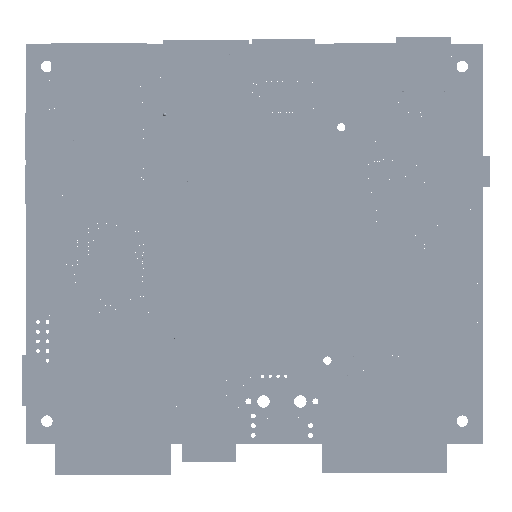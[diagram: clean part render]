
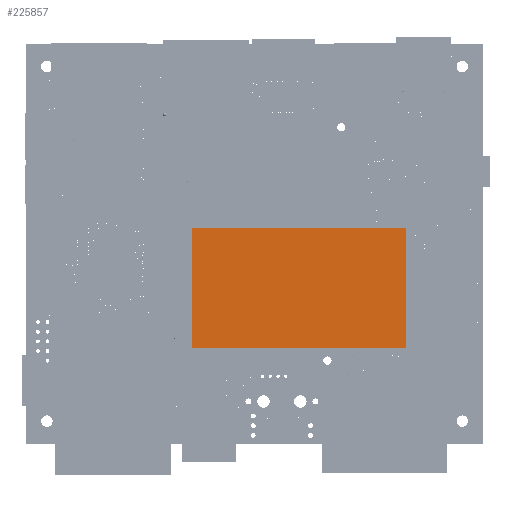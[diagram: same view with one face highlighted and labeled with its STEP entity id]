
A CAD part, top view. The second image highlights one B-rep face of the part: STEP entity #225857.
In plain terms, the highlighted planar face has unit normal (0, 0, 1).
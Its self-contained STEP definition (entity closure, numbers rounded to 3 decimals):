
#1309 = FACE_OUTER_BOUND ( 'NONE', #142479, .T. ) ;
#3523 = PLANE ( 'NONE',  #4335 ) ;
#3524 = CARTESIAN_POINT ( 'NONE',  ( 99.603, 25.145, 10.699 ) ) ;
#3526 = DIRECTION ( 'NONE',  ( 0., 0., -1. ) ) ;
#3528 = DIRECTION ( 'NONE',  ( -1., 0., 0. ) ) ;
#4335 = AXIS2_PLACEMENT_3D ( 'NONE', #3524, #3526, #3528 ) ;
#142479 = EDGE_LOOP ( 'NONE', ( #217905, #217908, #217910, #217894 ) ) ;
#204153 = EDGE_CURVE ( 'NONE', #354273, #353863, #320235, .T. ) ;
#204177 = EDGE_CURVE ( 'NONE', #353863, #353987, #320242, .T. ) ;
#204195 = EDGE_CURVE ( 'NONE', #353987, #354224, #320244, .T. ) ;
#204208 = EDGE_CURVE ( 'NONE', #354224, #354273, #320251, .T. ) ;
#217894 = ORIENTED_EDGE ( 'NONE', *, *, #204208, .T. ) ;
#217905 = ORIENTED_EDGE ( 'NONE', *, *, #204153, .T. ) ;
#217908 = ORIENTED_EDGE ( 'NONE', *, *, #204177, .T. ) ;
#217910 = ORIENTED_EDGE ( 'NONE', *, *, #204195, .T. ) ;
#225857 = ADVANCED_FACE ( 'NONE', ( #1309 ), #3523, .F. ) ;
#307367 = CARTESIAN_POINT ( 'NONE',  ( 99.603, 56.745, 10.699 ) ) ;
#307485 = CARTESIAN_POINT ( 'NONE',  ( 43.5, 56.745, 10.699 ) ) ;
#307722 = CARTESIAN_POINT ( 'NONE',  ( 43.5, 25.145, 10.699 ) ) ;
#307788 = CARTESIAN_POINT ( 'NONE',  ( 99.603, 25.145, 10.699 ) ) ;
#320235 = LINE ( 'NONE', #328448, #325018 ) ;
#320242 = LINE ( 'NONE', #328498, #325041 ) ;
#320244 = LINE ( 'NONE', #328533, #325056 ) ;
#320251 = LINE ( 'NONE', #328562, #325069 ) ;
#325018 = VECTOR ( 'NONE', #328450, 1000. ) ;
#325041 = VECTOR ( 'NONE', #328500, 1000. ) ;
#325056 = VECTOR ( 'NONE', #328535, 1000. ) ;
#325069 = VECTOR ( 'NONE', #328565, 1000. ) ;
#328448 = CARTESIAN_POINT ( 'NONE',  ( 99.603, 56.745, 10.699 ) ) ;
#328450 = DIRECTION ( 'NONE',  ( 0., 1., 0. ) ) ;
#328498 = CARTESIAN_POINT ( 'NONE',  ( 43.5, 56.745, 10.699 ) ) ;
#328500 = DIRECTION ( 'NONE',  ( -1., 0., 0. ) ) ;
#328533 = CARTESIAN_POINT ( 'NONE',  ( 43.5, 25.145, 10.699 ) ) ;
#328535 = DIRECTION ( 'NONE',  ( 0., -1., 0. ) ) ;
#328562 = CARTESIAN_POINT ( 'NONE',  ( 99.603, 25.145, 10.699 ) ) ;
#328565 = DIRECTION ( 'NONE',  ( 1., 0., 0. ) ) ;
#353863 = VERTEX_POINT ( 'NONE', #307367 ) ;
#353987 = VERTEX_POINT ( 'NONE', #307485 ) ;
#354224 = VERTEX_POINT ( 'NONE', #307722 ) ;
#354273 = VERTEX_POINT ( 'NONE', #307788 ) ;
